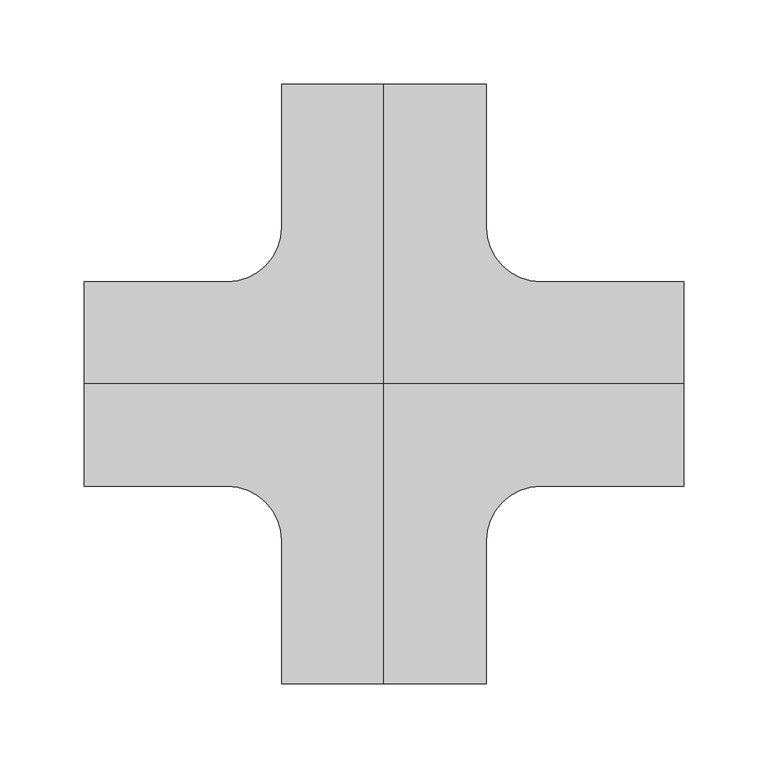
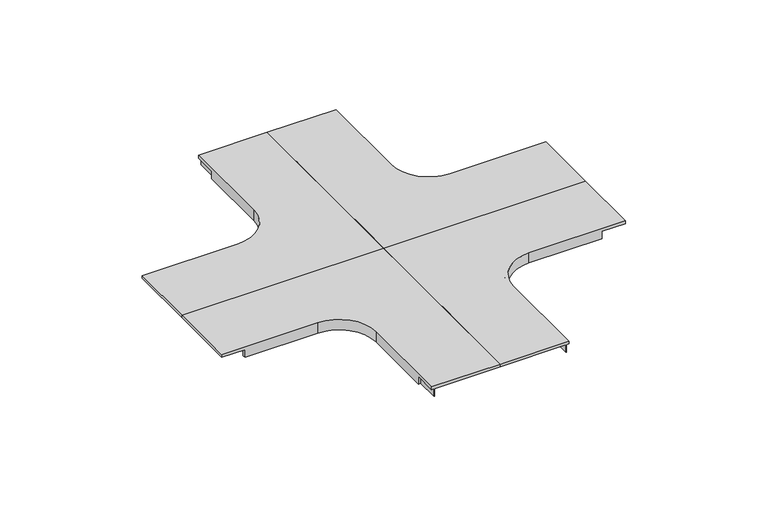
"""IFC4 building model written with IfcOpenShell, lengths in millimetres: cable carrier fitting geometry, CCT_Hyperline_FBTR-CRS-CVR_Крышка на ответвитель крестообразный пластиковый : Крышка на ответвитель крестообразный пластиковый."""

from ifc_helpers import new_model, si_unit, frame, origin, place, context, project, spatial, polyline, circle_curve, source, transform, mapped, element, save
from ifc_brep_helpers import plane_surface, cylinder_surface, revolved_surface, advanced_brep


def cable_carrier_fitting_4c80ffbf(model_context):
    return source(origin(), model_context, "Body", "AdvancedBrep", [
        advanced_brep(
        [(177.5, -60.54, 52.54), (177.5, -60.54, 50.0), (177.5, 0.0, 50.0), (177.5, 0.0, 52.54), (93.0, -58.0, 50.0), (157.1504105, -58.0, 50.0), (157.1504105, -58.0, 43.0), (93.0, -58.0, 43.0), (157.1504105, -60.54, 43.0), (93.0, -60.54, 43.0), (60.54, -93.0, 43.0), (60.54, -157.5, 43.0), (58.46, -157.5, 43.0), (58.46, -177.5, 43.0), (58.0, -177.5, 43.0), (58.0, -93.0, 43.0), (93.0, -60.54, 52.54), (157.1504105, -60.54, 50.0), (58.0, -93.0, 50.0), (60.54, -93.0, 52.54), (0.0, -177.5, 52.54), (0.0, -177.5, 50.0), (58.0, -177.5, 50.0), (58.46, -177.5, 50.0), (60.54, -177.5, 50.0), (60.54, -177.5, 52.54), (60.54, -157.5, 50.0), (0.0, 0.0, 52.54), (0.0, 0.0, 50.0), (58.46, -157.5, 50.0)],
        [
            (0, 1),
            (1, 2),
            (2, 3),
            (3, 0),
            (4, 5),
            (5, 6),
            (6, 7),
            (7, 4),
            (6, 8),
            (8, 9),
            (9, 10, circle_curve(frame((93.0, -93.0, 43.0), z_axis=(0.0, 0.0, 1.0), x_axis=(0.0, 1.0, 0.0)), 32.46)),
            (10, 11),
            (11, 12),
            (12, 13),
            (13, 14),
            (14, 15),
            (15, 7, circle_curve(frame((93.0, -93.0, 43.0), z_axis=(0.0, 0.0, -1.0), x_axis=(0.0, 1.0, 0.0)), 35.0)),
            (16, 9),
            (8, 17),
            (17, 1),
            (0, 16),
            (15, 18),
            (18, 4, circle_curve(frame((93.0, -93.0, 50.0), z_axis=(0.0, 0.0, -1.0), x_axis=(0.0, 1.0, 0.0)), 35.0)),
            (19, 10),
            (16, 19, circle_curve(frame((93.0, -93.0, 52.54), z_axis=(0.0, 0.0, 1.0), x_axis=(0.0, 1.0, 0.0)), 32.46)),
            (20, 21),
            (21, 22),
            (22, 14),
            (13, 23),
            (23, 24),
            (24, 25),
            (25, 20),
            (22, 18),
            (24, 26),
            (26, 11),
            (19, 25),
            (3, 27),
            (27, 20),
            (2, 28),
            (28, 27),
            (17, 5),
            (21, 28),
            (26, 29),
            (29, 12),
            (29, 23),
        ],
        [
            plane_surface(frame((177.5, -58.0, 25.0), z_axis=(1.0, 0.0, 0.0), x_axis=(0.0, 0.0, 1.0))),
            plane_surface(frame((177.5, -58.0, 50.0), z_axis=(0.0, 1.0, 0.0), x_axis=(-1.0, 0.0, 0.0))),
            plane_surface(frame((177.5, -58.0, 43.0), z_axis=(0.0, 0.0, -1.0), x_axis=(-1.0, 0.0, 0.0))),
            plane_surface(frame((177.5, -60.54, 43.0), z_axis=(0.0, -1.0, 0.0), x_axis=(-1.0, 0.0, 0.0))),
            cylinder_surface(frame((93.0, -93.0, 25.0), z_axis=(0.0, 0.0, -1.0), x_axis=(0.0, 1.0, 0.0)), 35.0),
            revolved_surface(polyline([(93.0, -60.54, 43.0), (93.0, -60.54, 52.54)]), (93.0, -93.0, 25.0), (0.0, 0.0, -1.0)),
            plane_surface(frame((58.0, -177.5, 25.0), z_axis=(0.0, -1.0, 0.0), x_axis=(0.0, 0.0, 1.0))),
            plane_surface(frame((58.0, -93.0, 50.0), z_axis=(-1.0, 0.0, 0.0), x_axis=(0.0, -1.0, 0.0))),
            plane_surface(frame((60.54, -93.0, 43.0), z_axis=(1.0, 0.0, 0.0), x_axis=(0.0, -1.0, 0.0))),
            plane_surface(frame((177.5, -60.54, 52.54), z_axis=(0.0, 0.0, 1.0), x_axis=(-1.0, 0.0, 0.0))),
            plane_surface(frame((177.5, 0.0, 52.54), z_axis=(0.0, 1.0, 0.0), x_axis=(-1.0, 0.0, 0.0))),
            plane_surface(frame((177.5, 0.0, 50.0), z_axis=(0.0, 0.0, -1.0), x_axis=(-1.0, 0.0, 0.0))),
            plane_surface(frame((0.0, -93.0, 52.54), z_axis=(-1.0, 0.0, 0.0), x_axis=(0.0, -1.0, 0.0))),
            plane_surface(frame((157.1504105, -60.54, 43.0), z_axis=(1.0, 0.0, 0.0), x_axis=(0.0, 1.0, 0.0))),
            plane_surface(frame((58.46, -157.5, 43.0), z_axis=(0.0, -1.0, 0.0), x_axis=(1.0, 0.0, 0.0))),
            plane_surface(frame((58.46, -177.5, 50.0), z_axis=(1.0, 0.0, 0.0), x_axis=(0.0, -1.0, 0.0))),
            plane_surface(frame((58.46, -157.5, 50.0), z_axis=(0.0, 0.0, -1.0), x_axis=(1.0, 0.0, 0.0))),
        ],
        [
            (0, [[1, 2, 3, 4]]),
            (1, [[5, 6, 7, 8]]),
            (2, [[-7, 9, 10, 11, 12, 13, 14, 15, 16, 17]]),
            (3, [[18, -10, 19, 20, -1, 21]]),
            (4, [[-8, -17, 22, 23]]),
            (5, [[24, -11, -18, 25]]),
            (6, [[26, 27, 28, -15, 29, 30, 31, 32]]),
            (7, [[-22, -16, -28, 33]]),
            (8, [[-31, 34, 35, -12, -24, 36]]),
            (9, [[37, 38, -32, -36, -25, -21, -4]]),
            (10, [[39, 40, -37, -3]]),
            (11, [[-2, -20, 41, -5, -23, -33, -27, 42, -39]]),
            (12, [[-40, -42, -26, -38]]),
            (13, [[-19, -9, -6, -41]]),
            (14, [[-13, -35, 43, 44]]),
            (15, [[45, -29, -14, -44]]),
            (16, [[-43, -34, -30, -45]]),
        ],
    ),
        advanced_brep(
        [(177.5, 60.54, 52.54), (177.5, 0.0, 52.54), (177.5, 0.0, 50.0), (177.5, 60.54, 50.0), (93.0, 58.0, 50.0), (93.0, 58.0, 43.0), (157.1504105, 58.0, 43.0), (157.1504105, 58.0, 50.0), (58.0, 93.0, 43.0), (58.0, 177.5, 43.0), (58.46, 177.5, 43.0), (58.46, 157.5, 43.0), (60.54, 157.5, 43.0), (60.54, 93.0, 43.0), (93.0, 60.54, 43.0), (157.1504105, 60.54, 43.0), (93.0, 60.54, 52.54), (157.1504105, 60.54, 50.0), (58.0, 93.0, 50.0), (60.54, 93.0, 52.54), (0.0, 177.5, 52.54), (60.54, 177.5, 52.54), (60.54, 177.5, 50.0), (58.46, 177.5, 50.0), (58.0, 177.5, 50.0), (0.0, 177.5, 50.0), (60.54, 157.5, 50.0), (0.0, 0.0, 52.54), (0.0, 0.0, 50.0), (58.46, 157.5, 50.0)],
        [
            (0, 1),
            (1, 2),
            (2, 3),
            (3, 0),
            (4, 5),
            (5, 6),
            (6, 7),
            (7, 4),
            (5, 8, circle_curve(frame((93.0, 93.0, 43.0), z_axis=(0.0, 0.0, -1.0), x_axis=(0.0, -1.0, 0.0)), 35.0)),
            (8, 9),
            (9, 10),
            (10, 11),
            (11, 12),
            (12, 13),
            (13, 14, circle_curve(frame((93.0, 93.0, 43.0), z_axis=(0.0, 0.0, 1.0), x_axis=(0.0, -1.0, 0.0)), 32.46)),
            (14, 15),
            (15, 6),
            (16, 0),
            (3, 17),
            (17, 15),
            (14, 16),
            (4, 18, circle_curve(frame((93.0, 93.0, 50.0), z_axis=(0.0, 0.0, -1.0), x_axis=(0.0, -1.0, 0.0)), 35.0)),
            (18, 8),
            (19, 16, circle_curve(frame((93.0, 93.0, 52.54), z_axis=(0.0, 0.0, 1.0), x_axis=(0.0, -1.0, 0.0)), 32.46)),
            (13, 19),
            (20, 21),
            (21, 22),
            (22, 23),
            (23, 10),
            (9, 24),
            (24, 25),
            (25, 20),
            (18, 24),
            (21, 19),
            (12, 26),
            (26, 22),
            (20, 27),
            (27, 1),
            (27, 28),
            (28, 2),
            (28, 25),
            (7, 17),
            (11, 29),
            (29, 26),
            (23, 29),
        ],
        [
            plane_surface(frame((177.5, 58.0, 25.0), z_axis=(1.0, 0.0, 0.0), x_axis=(0.0, 0.0, 1.0))),
            plane_surface(frame((177.5, 58.0, 50.0), z_axis=(0.0, -1.0, 0.0), x_axis=(-1.0, 0.0, 0.0))),
            plane_surface(frame((177.5, 58.0, 43.0), z_axis=(0.0, 0.0, -1.0), x_axis=(-1.0, 0.0, 0.0))),
            plane_surface(frame((177.5, 60.54, 43.0), z_axis=(0.0, 1.0, 0.0), x_axis=(-1.0, 0.0, 0.0))),
            cylinder_surface(frame((93.0, 93.0, 25.0), z_axis=(0.0, 0.0, -1.0), x_axis=(0.0, -1.0, 0.0)), 35.0),
            revolved_surface(polyline([(93.0, 60.54, 43.0), (93.0, 60.54, 52.54)]), (93.0, 93.0, 25.0), (0.0, 0.0, -1.0)),
            plane_surface(frame((58.0, 177.5, 25.0), z_axis=(0.0, 1.0, 0.0), x_axis=(0.0, 0.0, 1.0))),
            plane_surface(frame((58.0, 93.0, 50.0), z_axis=(-1.0, 0.0, 0.0), x_axis=(0.0, 1.0, 0.0))),
            plane_surface(frame((60.54, 93.0, 43.0), z_axis=(1.0, 0.0, 0.0), x_axis=(0.0, 1.0, 0.0))),
            plane_surface(frame((177.5, 60.54, 52.54), z_axis=(0.0, 0.0, 1.0), x_axis=(-1.0, 0.0, 0.0))),
            plane_surface(frame((177.5, 0.0, 52.54), z_axis=(0.0, -1.0, 0.0), x_axis=(-1.0, 0.0, 0.0))),
            plane_surface(frame((177.5, 0.0, 50.0), z_axis=(0.0, 0.0, -1.0), x_axis=(-1.0, 0.0, 0.0))),
            plane_surface(frame((0.0, 93.0, 52.54), z_axis=(-1.0, 0.0, 0.0), x_axis=(0.0, 1.0, 0.0))),
            plane_surface(frame((157.1504105, 60.54, 43.0), z_axis=(1.0, 0.0, 0.0), x_axis=(0.0, -1.0, 0.0))),
            plane_surface(frame((58.46, 157.5, 43.0), z_axis=(0.0, 1.0, 0.0), x_axis=(1.0, 0.0, 0.0))),
            plane_surface(frame((58.46, 177.5, 50.0), z_axis=(1.0, 0.0, 0.0), x_axis=(0.0, 1.0, 0.0))),
            plane_surface(frame((58.46, 157.5, 50.0), z_axis=(0.0, 0.0, -1.0), x_axis=(1.0, 0.0, 0.0))),
        ],
        [
            (0, [[1, 2, 3, 4]]),
            (1, [[5, 6, 7, 8]]),
            (2, [[9, 10, 11, 12, 13, 14, 15, 16, 17, -6]]),
            (3, [[18, -4, 19, 20, -16, 21]]),
            (4, [[22, 23, -9, -5]]),
            (5, [[24, -21, -15, 25]]),
            (6, [[26, 27, 28, 29, -11, 30, 31, 32]]),
            (7, [[33, -30, -10, -23]]),
            (8, [[34, -25, -14, 35, 36, -27]]),
            (9, [[-1, -18, -24, -34, -26, 37, 38]]),
            (10, [[-2, -38, 39, 40]]),
            (11, [[-40, 41, -31, -33, -22, -8, 42, -19, -3]]),
            (12, [[-37, -32, -41, -39]]),
            (13, [[-42, -7, -17, -20]]),
            (14, [[43, 44, -35, -13]]),
            (15, [[-43, -12, -29, 45]]),
            (16, [[-45, -28, -36, -44]]),
        ],
    ),
        advanced_brep(
        [(-177.5, -60.54, 52.54), (-177.5, 0.0, 52.54), (-177.5, 0.0, 50.0), (-177.5, -60.54, 50.0), (-93.0, -58.0, 50.0), (-93.0, -58.0, 43.0), (-157.1504105, -58.0, 43.0), (-157.1504105, -58.0, 50.0), (-58.0, -93.0, 43.0), (-58.0, -177.5, 43.0), (-58.46, -177.5, 43.0), (-58.46, -157.5, 43.0), (-60.54, -157.5, 43.0), (-60.54, -93.0, 43.0), (-93.0, -60.54, 43.0), (-157.1504105, -60.54, 43.0), (-93.0, -60.54, 52.54), (-157.1504105, -60.54, 50.0), (-58.0, -93.0, 50.0), (-60.54, -93.0, 52.54), (0.0, -177.5, 52.54), (-60.54, -177.5, 52.54), (-60.54, -177.5, 50.0), (-58.46, -177.5, 50.0), (-58.0, -177.5, 50.0), (0.0, -177.5, 50.0), (-60.54, -157.5, 50.0), (0.0, 0.0, 52.54), (0.0, 0.0, 50.0), (-58.46, -157.5, 50.0)],
        [
            (0, 1),
            (1, 2),
            (2, 3),
            (3, 0),
            (4, 5),
            (5, 6),
            (6, 7),
            (7, 4),
            (5, 8, circle_curve(frame((-93.0, -93.0, 43.0), z_axis=(0.0, 0.0, -1.0), x_axis=(0.0, 1.0, 0.0)), 35.0)),
            (8, 9),
            (9, 10),
            (10, 11),
            (11, 12),
            (12, 13),
            (13, 14, circle_curve(frame((-93.0, -93.0, 43.0), z_axis=(0.0, 0.0, 1.0), x_axis=(0.0, 1.0, 0.0)), 32.46)),
            (14, 15),
            (15, 6),
            (16, 0),
            (3, 17),
            (17, 15),
            (14, 16),
            (4, 18, circle_curve(frame((-93.0, -93.0, 50.0), z_axis=(0.0, 0.0, -1.0), x_axis=(0.0, 1.0, 0.0)), 35.0)),
            (18, 8),
            (19, 16, circle_curve(frame((-93.0, -93.0, 52.54), z_axis=(0.0, 0.0, 1.0), x_axis=(0.0, 1.0, 0.0)), 32.46)),
            (13, 19),
            (20, 21),
            (21, 22),
            (22, 23),
            (23, 10),
            (9, 24),
            (24, 25),
            (25, 20),
            (18, 24),
            (21, 19),
            (12, 26),
            (26, 22),
            (20, 27),
            (27, 1),
            (27, 28),
            (28, 2),
            (28, 25),
            (7, 17),
            (11, 29),
            (29, 26),
            (23, 29),
        ],
        [
            plane_surface(frame((-177.5, -58.0, 25.0), z_axis=(-1.0, 0.0, 0.0), x_axis=(0.0, 0.0, 1.0))),
            plane_surface(frame((-177.5, -58.0, 50.0), z_axis=(0.0, 1.0, 0.0), x_axis=(1.0, 0.0, 0.0))),
            plane_surface(frame((-177.5, -58.0, 43.0), z_axis=(0.0, 0.0, -1.0), x_axis=(1.0, 0.0, 0.0))),
            plane_surface(frame((-177.5, -60.54, 43.0), z_axis=(0.0, -1.0, 0.0), x_axis=(1.0, 0.0, 0.0))),
            cylinder_surface(frame((-93.0, -93.0, 25.0), z_axis=(0.0, 0.0, -1.0), x_axis=(0.0, 1.0, 0.0)), 35.0),
            revolved_surface(polyline([(-93.0, -60.54, 43.0), (-93.0, -60.54, 52.54)]), (-93.0, -93.0, 25.0), (0.0, 0.0, -1.0)),
            plane_surface(frame((-58.0, -177.5, 25.0), z_axis=(0.0, -1.0, 0.0), x_axis=(0.0, 0.0, 1.0))),
            plane_surface(frame((-58.0, -93.0, 50.0), z_axis=(1.0, 0.0, 0.0), x_axis=(0.0, -1.0, 0.0))),
            plane_surface(frame((-60.54, -93.0, 43.0), z_axis=(-1.0, 0.0, 0.0), x_axis=(0.0, -1.0, 0.0))),
            plane_surface(frame((-177.5, -60.54, 52.54), z_axis=(0.0, 0.0, 1.0), x_axis=(1.0, 0.0, 0.0))),
            plane_surface(frame((-177.5, 0.0, 52.54), z_axis=(0.0, 1.0, 0.0), x_axis=(1.0, 0.0, 0.0))),
            plane_surface(frame((-177.5, 0.0, 50.0), z_axis=(0.0, 0.0, -1.0), x_axis=(1.0, 0.0, 0.0))),
            plane_surface(frame((0.0, -93.0, 52.54), z_axis=(1.0, 0.0, 0.0), x_axis=(0.0, -1.0, 0.0))),
            plane_surface(frame((-157.1504105, -60.54, 43.0), z_axis=(-1.0, 0.0, 0.0), x_axis=(0.0, 1.0, 0.0))),
            plane_surface(frame((-58.46, -157.5, 43.0), z_axis=(0.0, -1.0, 0.0), x_axis=(-1.0, 0.0, 0.0))),
            plane_surface(frame((-58.46, -177.5, 50.0), z_axis=(-1.0, 0.0, 0.0), x_axis=(0.0, -1.0, 0.0))),
            plane_surface(frame((-58.46, -157.5, 50.0), z_axis=(0.0, 0.0, -1.0), x_axis=(-1.0, 0.0, 0.0))),
        ],
        [
            (0, [[1, 2, 3, 4]]),
            (1, [[5, 6, 7, 8]]),
            (2, [[9, 10, 11, 12, 13, 14, 15, 16, 17, -6]]),
            (3, [[18, -4, 19, 20, -16, 21]]),
            (4, [[22, 23, -9, -5]]),
            (5, [[24, -21, -15, 25]]),
            (6, [[26, 27, 28, 29, -11, 30, 31, 32]]),
            (7, [[33, -30, -10, -23]]),
            (8, [[34, -25, -14, 35, 36, -27]]),
            (9, [[-1, -18, -24, -34, -26, 37, 38]]),
            (10, [[-2, -38, 39, 40]]),
            (11, [[-40, 41, -31, -33, -22, -8, 42, -19, -3]]),
            (12, [[-37, -32, -41, -39]]),
            (13, [[-42, -7, -17, -20]]),
            (14, [[43, 44, -35, -13]]),
            (15, [[-43, -12, -29, 45]]),
            (16, [[-45, -28, -36, -44]]),
        ],
    ),
        advanced_brep(
        [(-177.5, 60.54, 52.54), (-177.5, 60.54, 50.0), (-177.5, 0.0, 50.0), (-177.5, 0.0, 52.54), (-93.0, 58.0, 50.0), (-157.1504105, 58.0, 50.0), (-157.1504105, 58.0, 43.0), (-93.0, 58.0, 43.0), (-157.1504105, 60.54, 43.0), (-93.0, 60.54, 43.0), (-60.54, 93.0, 43.0), (-60.54, 157.5, 43.0), (-58.46, 157.5, 43.0), (-58.46, 177.5, 43.0), (-58.0, 177.5, 43.0), (-58.0, 93.0, 43.0), (-93.0, 60.54, 52.54), (-157.1504105, 60.54, 50.0), (-58.0, 93.0, 50.0), (-60.54, 93.0, 52.54), (0.0, 177.5, 52.54), (0.0, 177.5, 50.0), (-58.0, 177.5, 50.0), (-58.46, 177.5, 50.0), (-60.54, 177.5, 50.0), (-60.54, 177.5, 52.54), (-60.54, 157.5, 50.0), (0.0, 0.0, 52.54), (0.0, 0.0, 50.0), (-58.46, 157.5, 50.0)],
        [
            (0, 1),
            (1, 2),
            (2, 3),
            (3, 0),
            (4, 5),
            (5, 6),
            (6, 7),
            (7, 4),
            (6, 8),
            (8, 9),
            (9, 10, circle_curve(frame((-93.0, 93.0, 43.0), z_axis=(0.0, 0.0, 1.0), x_axis=(0.0, -1.0, 0.0)), 32.46)),
            (10, 11),
            (11, 12),
            (12, 13),
            (13, 14),
            (14, 15),
            (15, 7, circle_curve(frame((-93.0, 93.0, 43.0), z_axis=(0.0, 0.0, -1.0), x_axis=(0.0, -1.0, 0.0)), 35.0)),
            (16, 9),
            (8, 17),
            (17, 1),
            (0, 16),
            (15, 18),
            (18, 4, circle_curve(frame((-93.0, 93.0, 50.0), z_axis=(0.0, 0.0, -1.0), x_axis=(0.0, -1.0, 0.0)), 35.0)),
            (19, 10),
            (16, 19, circle_curve(frame((-93.0, 93.0, 52.54), z_axis=(0.0, 0.0, 1.0), x_axis=(0.0, -1.0, 0.0)), 32.46)),
            (20, 21),
            (21, 22),
            (22, 14),
            (13, 23),
            (23, 24),
            (24, 25),
            (25, 20),
            (22, 18),
            (24, 26),
            (26, 11),
            (19, 25),
            (3, 27),
            (27, 20),
            (2, 28),
            (28, 27),
            (17, 5),
            (21, 28),
            (26, 29),
            (29, 12),
            (29, 23),
        ],
        [
            plane_surface(frame((-177.5, 58.0, 25.0), z_axis=(-1.0, 0.0, 0.0), x_axis=(0.0, 0.0, 1.0))),
            plane_surface(frame((-177.5, 58.0, 50.0), z_axis=(0.0, -1.0, 0.0), x_axis=(1.0, 0.0, 0.0))),
            plane_surface(frame((-177.5, 58.0, 43.0), z_axis=(0.0, 0.0, -1.0), x_axis=(1.0, 0.0, 0.0))),
            plane_surface(frame((-177.5, 60.54, 43.0), z_axis=(0.0, 1.0, 0.0), x_axis=(1.0, 0.0, 0.0))),
            cylinder_surface(frame((-93.0, 93.0, 25.0), z_axis=(0.0, 0.0, -1.0), x_axis=(0.0, -1.0, 0.0)), 35.0),
            revolved_surface(polyline([(-93.0, 60.54, 43.0), (-93.0, 60.54, 52.54)]), (-93.0, 93.0, 25.0), (0.0, 0.0, -1.0)),
            plane_surface(frame((-58.0, 177.5, 25.0), z_axis=(0.0, 1.0, 0.0), x_axis=(0.0, 0.0, 1.0))),
            plane_surface(frame((-58.0, 93.0, 50.0), z_axis=(1.0, 0.0, 0.0), x_axis=(0.0, 1.0, 0.0))),
            plane_surface(frame((-60.54, 93.0, 43.0), z_axis=(-1.0, 0.0, 0.0), x_axis=(0.0, 1.0, 0.0))),
            plane_surface(frame((-177.5, 60.54, 52.54), z_axis=(0.0, 0.0, 1.0), x_axis=(1.0, 0.0, 0.0))),
            plane_surface(frame((-177.5, 0.0, 52.54), z_axis=(0.0, -1.0, 0.0), x_axis=(1.0, 0.0, 0.0))),
            plane_surface(frame((-177.5, 0.0, 50.0), z_axis=(0.0, 0.0, -1.0), x_axis=(1.0, 0.0, 0.0))),
            plane_surface(frame((0.0, 93.0, 52.54), z_axis=(1.0, 0.0, 0.0), x_axis=(0.0, 1.0, 0.0))),
            plane_surface(frame((-157.1504105, 60.54, 43.0), z_axis=(-1.0, 0.0, 0.0), x_axis=(0.0, -1.0, 0.0))),
            plane_surface(frame((-58.46, 157.5, 43.0), z_axis=(0.0, 1.0, 0.0), x_axis=(-1.0, 0.0, 0.0))),
            plane_surface(frame((-58.46, 177.5, 50.0), z_axis=(-1.0, 0.0, 0.0), x_axis=(0.0, 1.0, 0.0))),
            plane_surface(frame((-58.46, 157.5, 50.0), z_axis=(0.0, 0.0, -1.0), x_axis=(-1.0, 0.0, 0.0))),
        ],
        [
            (0, [[1, 2, 3, 4]]),
            (1, [[5, 6, 7, 8]]),
            (2, [[-7, 9, 10, 11, 12, 13, 14, 15, 16, 17]]),
            (3, [[18, -10, 19, 20, -1, 21]]),
            (4, [[-8, -17, 22, 23]]),
            (5, [[24, -11, -18, 25]]),
            (6, [[26, 27, 28, -15, 29, 30, 31, 32]]),
            (7, [[-22, -16, -28, 33]]),
            (8, [[-31, 34, 35, -12, -24, 36]]),
            (9, [[37, 38, -32, -36, -25, -21, -4]]),
            (10, [[39, 40, -37, -3]]),
            (11, [[-2, -20, 41, -5, -23, -33, -27, 42, -39]]),
            (12, [[-40, -42, -26, -38]]),
            (13, [[-19, -9, -6, -41]]),
            (14, [[-13, -35, 43, 44]]),
            (15, [[45, -29, -14, -44]]),
            (16, [[-43, -34, -30, -45]]),
        ],
    ),
    ])


if __name__ == "__main__":
    model = new_model("IFC4")
    model_context = context("Model", 3, world=origin())
    ifc_project = project(units=[si_unit("LENGTHUNIT", "METRE", prefix="MILLI")], contexts=[model_context])
    site = spatial("IfcSite", under=ifc_project)
    building = spatial("IfcBuilding", under=site)
    placement = place(None, origin())
    cable_carrier_fitting_shape = cable_carrier_fitting_4c80ffbf(model_context)
    element("IfcCableCarrierFitting", 1, ObjectType="CCT_Hyperline_FBTR-CRS-CVR_Крышка на ответвитель крестообразный пластиковый : Крышка на ответвитель крестообразный пластиковый", at=placement, inside=building, context=model_context, shape_type="MappedRepresentation", body=[
        mapped(cable_carrier_fitting_shape, transform((0.0, 0.0, 0.0), x_axis=(1.0, 0.0, 0.0), y_axis=(0.0, 1.0, 0.0), z_axis=(0.0, 0.0, 1.0))),
    ])
    save(model, "model.ifc")
